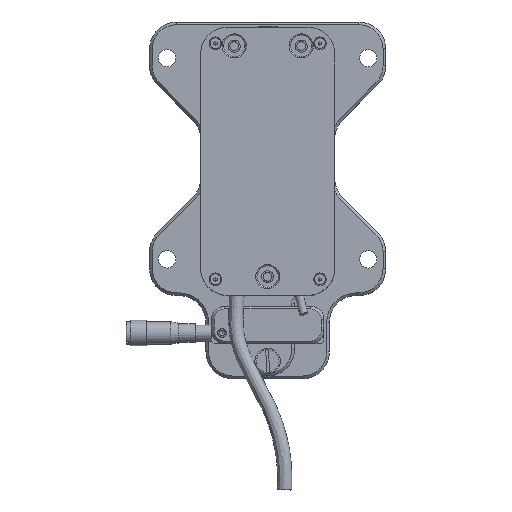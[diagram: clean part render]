
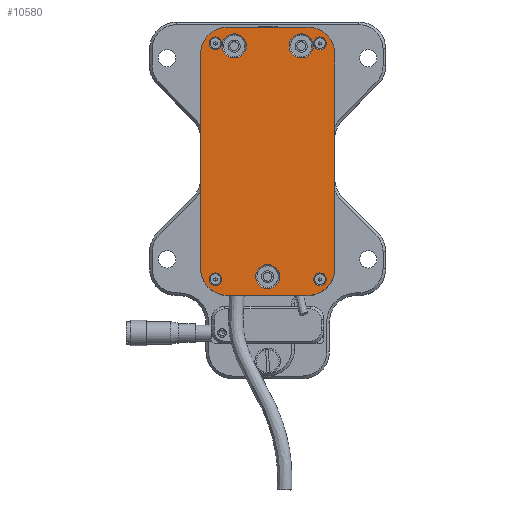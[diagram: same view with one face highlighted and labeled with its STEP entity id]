
A CAD part, top view. The second image highlights one B-rep face of the part: STEP entity #10580.
In plain terms, the highlighted planar face has unit normal (0, 0, 1).
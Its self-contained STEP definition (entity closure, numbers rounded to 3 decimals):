
#852=LINE('',#28393,#1528);
#855=LINE('',#28407,#1531);
#861=LINE('',#28465,#1537);
#862=LINE('',#28471,#1538);
#1528=VECTOR('',#14805,10.);
#1531=VECTOR('',#14818,10.);
#1537=VECTOR('',#14884,10.);
#1538=VECTOR('',#14891,10.);
#2589=FACE_BOUND('',#4292,.T.);
#2590=FACE_BOUND('',#4293,.T.);
#2591=FACE_BOUND('',#4294,.T.);
#2592=FACE_BOUND('',#4295,.T.);
#2593=FACE_BOUND('',#4296,.T.);
#2594=FACE_BOUND('',#4297,.T.);
#2595=FACE_BOUND('',#4298,.T.);
#3393=FACE_OUTER_BOUND('',#4291,.T.);
#4291=EDGE_LOOP('',(#9440,#9441,#9442,#9443,#9444,#9445,#9446,#9447));
#4292=EDGE_LOOP('',(#9448));
#4293=EDGE_LOOP('',(#9449));
#4294=EDGE_LOOP('',(#9450));
#4295=EDGE_LOOP('',(#9451));
#4296=EDGE_LOOP('',(#9452));
#4297=EDGE_LOOP('',(#9453));
#4298=EDGE_LOOP('',(#9454));
#4834=CIRCLE('',#11881,10.);
#4855=CIRCLE('',#11916,10.);
#4857=CIRCLE('',#11919,10.);
#4871=CIRCLE('',#11941,10.);
#4872=CIRCLE('',#11942,2.35);
#4873=CIRCLE('',#11943,2.35);
#4874=CIRCLE('',#11944,2.35);
#4875=CIRCLE('',#11945,2.35);
#4876=CIRCLE('',#11946,4.5);
#4877=CIRCLE('',#11947,4.5);
#4878=CIRCLE('',#11948,4.5);
#5688=VERTEX_POINT('',#28350);
#5690=VERTEX_POINT('',#28354);
#5703=VERTEX_POINT('',#28391);
#5708=VERTEX_POINT('',#28404);
#5709=VERTEX_POINT('',#28406);
#5717=VERTEX_POINT('',#28424);
#5719=VERTEX_POINT('',#28430);
#5733=VERTEX_POINT('',#28470);
#5734=VERTEX_POINT('',#28473);
#5735=VERTEX_POINT('',#28475);
#5736=VERTEX_POINT('',#28477);
#5737=VERTEX_POINT('',#28479);
#5738=VERTEX_POINT('',#28481);
#5739=VERTEX_POINT('',#28483);
#5740=VERTEX_POINT('',#28485);
#6947=EDGE_CURVE('',#5688,#5690,#4834,.T.);
#6961=EDGE_CURVE('',#5690,#5703,#852,.T.);
#6966=EDGE_CURVE('',#5709,#5708,#855,.T.);
#6975=EDGE_CURVE('',#5717,#5709,#4855,.T.);
#6979=EDGE_CURVE('',#5703,#5719,#4857,.T.);
#6994=EDGE_CURVE('',#5719,#5717,#861,.T.);
#6996=EDGE_CURVE('',#5733,#5688,#862,.T.);
#6997=EDGE_CURVE('',#5733,#5708,#4871,.T.);
#6998=EDGE_CURVE('',#5734,#5734,#4872,.T.);
#6999=EDGE_CURVE('',#5735,#5735,#4873,.T.);
#7000=EDGE_CURVE('',#5736,#5736,#4874,.T.);
#7001=EDGE_CURVE('',#5737,#5737,#4875,.T.);
#7002=EDGE_CURVE('',#5738,#5738,#4876,.T.);
#7003=EDGE_CURVE('',#5739,#5739,#4877,.T.);
#7004=EDGE_CURVE('',#5740,#5740,#4878,.T.);
#9440=ORIENTED_EDGE('',*,*,#6996,.T.);
#9441=ORIENTED_EDGE('',*,*,#6947,.T.);
#9442=ORIENTED_EDGE('',*,*,#6961,.T.);
#9443=ORIENTED_EDGE('',*,*,#6979,.T.);
#9444=ORIENTED_EDGE('',*,*,#6994,.T.);
#9445=ORIENTED_EDGE('',*,*,#6975,.T.);
#9446=ORIENTED_EDGE('',*,*,#6966,.T.);
#9447=ORIENTED_EDGE('',*,*,#6997,.F.);
#9448=ORIENTED_EDGE('',*,*,#6998,.T.);
#9449=ORIENTED_EDGE('',*,*,#6999,.T.);
#9450=ORIENTED_EDGE('',*,*,#7000,.T.);
#9451=ORIENTED_EDGE('',*,*,#7001,.T.);
#9452=ORIENTED_EDGE('',*,*,#7002,.F.);
#9453=ORIENTED_EDGE('',*,*,#7003,.F.);
#9454=ORIENTED_EDGE('',*,*,#7004,.F.);
#9964=PLANE('',#11940);
#10580=ADVANCED_FACE('',(#3393,#2589,#2590,#2591,#2592,#2593,#2594,#2595),
#9964,.T.);
#11881=AXIS2_PLACEMENT_3D('',#28356,#14759,#14760);
#11916=AXIS2_PLACEMENT_3D('',#28425,#14836,#14837);
#11919=AXIS2_PLACEMENT_3D('',#28432,#14844,#14845);
#11940=AXIS2_PLACEMENT_3D('',#28469,#14889,#14890);
#11941=AXIS2_PLACEMENT_3D('',#28472,#14892,#14893);
#11942=AXIS2_PLACEMENT_3D('',#28474,#14894,#14895);
#11943=AXIS2_PLACEMENT_3D('',#28476,#14896,#14897);
#11944=AXIS2_PLACEMENT_3D('',#28478,#14898,#14899);
#11945=AXIS2_PLACEMENT_3D('',#28480,#14900,#14901);
#11946=AXIS2_PLACEMENT_3D('',#28482,#14902,#14903);
#11947=AXIS2_PLACEMENT_3D('',#28484,#14904,#14905);
#11948=AXIS2_PLACEMENT_3D('',#28486,#14906,#14907);
#14759=DIRECTION('center_axis',(0.,0.,1.));
#14760=DIRECTION('ref_axis',(1.,0.,0.));
#14805=DIRECTION('',(1.,0.,0.));
#14818=DIRECTION('',(-1.,0.,0.));
#14836=DIRECTION('center_axis',(0.,0.,1.));
#14837=DIRECTION('ref_axis',(-1.,0.,0.));
#14844=DIRECTION('center_axis',(0.,0.,1.));
#14845=DIRECTION('ref_axis',(0.,1.,0.));
#14884=DIRECTION('',(0.,1.,0.));
#14889=DIRECTION('center_axis',(0.,0.,1.));
#14890=DIRECTION('ref_axis',(1.,0.,0.));
#14891=DIRECTION('',(0.,-1.,0.));
#14892=DIRECTION('center_axis',(0.,0.,-1.));
#14893=DIRECTION('ref_axis',(-1.,0.,0.));
#14894=DIRECTION('center_axis',(0.,0.,-1.));
#14895=DIRECTION('ref_axis',(-1.,0.,0.));
#14896=DIRECTION('center_axis',(0.,0.,-1.));
#14897=DIRECTION('ref_axis',(-1.,0.,0.));
#14898=DIRECTION('center_axis',(0.,0.,-1.));
#14899=DIRECTION('ref_axis',(-1.,0.,0.));
#14900=DIRECTION('center_axis',(0.,0.,-1.));
#14901=DIRECTION('ref_axis',(-1.,0.,0.));
#14902=DIRECTION('center_axis',(0.,0.,1.));
#14903=DIRECTION('ref_axis',(1.,0.,0.));
#14904=DIRECTION('center_axis',(0.,0.,1.));
#14905=DIRECTION('ref_axis',(1.,0.,0.));
#14906=DIRECTION('center_axis',(0.,0.,1.));
#14907=DIRECTION('ref_axis',(1.,0.,0.));
#28350=CARTESIAN_POINT('',(-100.,-15.,33.));
#28354=CARTESIAN_POINT('',(-90.,-25.,33.));
#28356=CARTESIAN_POINT('Origin',(-90.,-15.,33.));
#28391=CARTESIAN_POINT('',(-10.,-25.,33.));
#28393=CARTESIAN_POINT('',(-10.,-25.,33.));
#28404=CARTESIAN_POINT('',(-90.,25.,33.));
#28406=CARTESIAN_POINT('',(-10.,25.,33.));
#28407=CARTESIAN_POINT('',(-90.,25.,33.));
#28424=CARTESIAN_POINT('',(0.,15.,33.));
#28425=CARTESIAN_POINT('Origin',(-10.,15.,33.));
#28430=CARTESIAN_POINT('',(0.,-15.,33.));
#28432=CARTESIAN_POINT('Origin',(-10.,-15.,33.));
#28465=CARTESIAN_POINT('',(0.,15.,33.));
#28469=CARTESIAN_POINT('Origin',(-50.,0.,33.));
#28470=CARTESIAN_POINT('',(-100.,15.,33.));
#28471=CARTESIAN_POINT('',(-100.,-5.,33.));
#28472=CARTESIAN_POINT('Origin',(-90.,15.,33.));
#28473=CARTESIAN_POINT('',(-8.35,-19.5,33.));
#28474=CARTESIAN_POINT('Origin',(-6.,-19.5,33.));
#28475=CARTESIAN_POINT('',(-96.35,19.5,33.));
#28476=CARTESIAN_POINT('Origin',(-94.,19.5,33.));
#28477=CARTESIAN_POINT('',(-96.35,-19.5,33.));
#28478=CARTESIAN_POINT('Origin',(-94.,-19.5,33.));
#28479=CARTESIAN_POINT('',(-8.35,19.5,33.));
#28480=CARTESIAN_POINT('Origin',(-6.,19.5,33.));
#28481=CARTESIAN_POINT('',(-11.5,12.5,33.));
#28482=CARTESIAN_POINT('Origin',(-7.,12.5,33.));
#28483=CARTESIAN_POINT('',(-97.5,0.,33.));
#28484=CARTESIAN_POINT('Origin',(-93.,0.,
33.));
#28485=CARTESIAN_POINT('',(-11.5,-12.5,33.));
#28486=CARTESIAN_POINT('Origin',(-7.,-12.5,33.));
